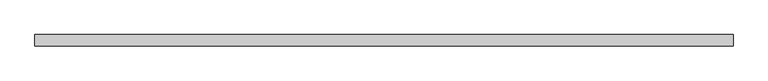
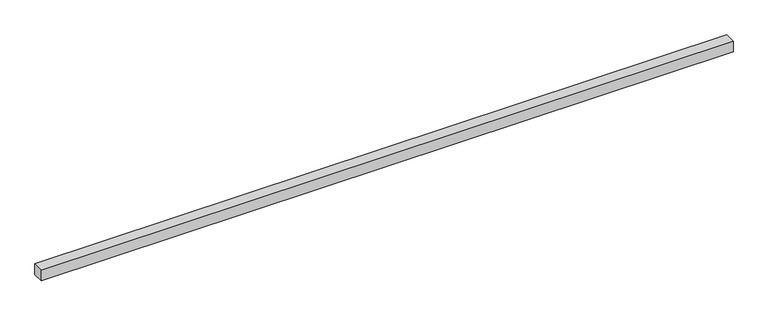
"""IFC4 building model written with IfcOpenShell, lengths in millimetres: proxy geometry, Building-Materials_Other_Daliform_Simple-Family_Accessory_PANEL_for ATLANTIS : PANEL_ATLANTIS-100_diam110_6.5x90x6.5."""

from ifc_helpers import new_model, si_unit, origin, origin_with_axes, place, context, project, spatial, polyline, outline, extrude, source, transform, mapped, element, save


def generic_models_739762aa(model_context):
    return source(origin(), model_context, "Body", "SweptSolid", [
        extrude(outline(polyline([(0.0, -65.0), (0.0, 0.0), (4016.0, 0.0), (4016.0, -65.0), (0.0, -65.0)])), origin_with_axes(), (0.0, 0.0, 1.0), 65.0),
    ])


if __name__ == "__main__":
    model = new_model("IFC4")
    model_context = context("Model", 3, world=origin())
    ifc_project = project(units=[si_unit("LENGTHUNIT", "METRE", prefix="MILLI")], contexts=[model_context])
    site = spatial("IfcSite", under=ifc_project)
    building = spatial("IfcBuilding", under=site)
    placement = place(None, origin())
    generic_models_shape = generic_models_739762aa(model_context)
    element("IfcBuildingElementProxy", 1, Name="Building-Materials_Other_Daliform_Simple-Family_Accessory_PANEL_for ATLANTIS : PANEL_ATLANTIS-100_diam110_6.5x90x6.5", ObjectType="Building-Materials_Other_Daliform_Simple-Family_Accessory_PANEL_for ATLANTIS : PANEL_ATLANTIS-100_diam110_6.5x90x6.5", at=placement, inside=building, context=model_context, shape_type="MappedRepresentation", body=[
        mapped(generic_models_shape, transform((0.0, 0.0, 0.0), x_axis=(1.0, 0.0, 0.0), y_axis=(0.0, 1.0, 0.0), z_axis=(0.0, 0.0, 1.0))),
    ])
    save(model, "model.ifc")
